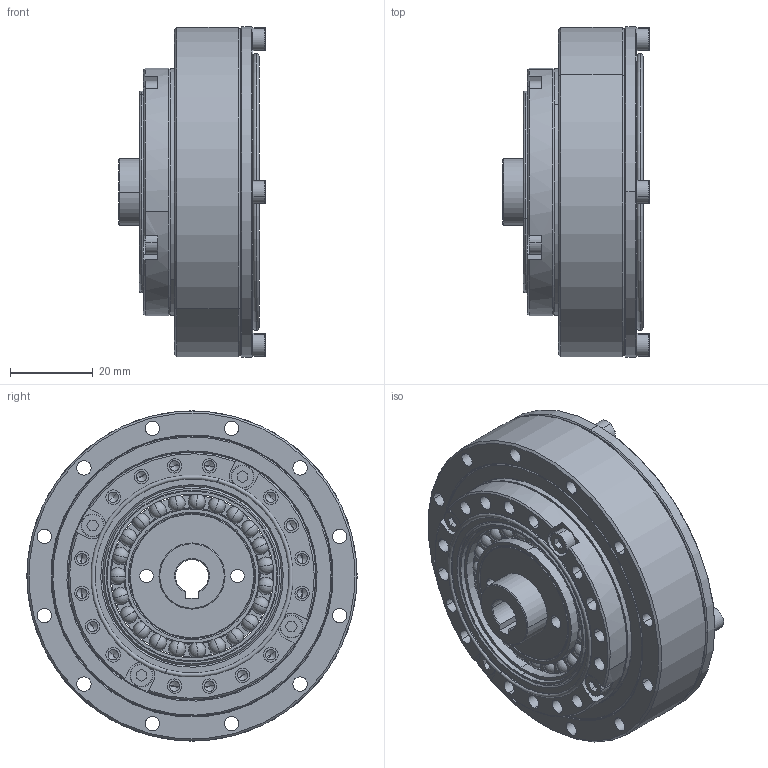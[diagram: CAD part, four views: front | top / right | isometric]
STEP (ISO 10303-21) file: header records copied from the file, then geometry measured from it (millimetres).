
FILE_DESCRIPTION (( 'STEP AP203' ), '1' );
FILE_NAME ('FHG-17-XXX-SJ.STEP', '2023-01-17T03:03:54', ( '微软用户' ), ( '微软中国' ), 'SwSTEP 2.0', 'SolidWorks 2016', '' );
FILE_SCHEMA (( 'CONFIG_CONTROL_DESIGN' ));
Length unit declared in the file: millimetre
Products named in the file (1): FHG-17-XXX-SJ
Bounding box: 35.5 x 80 x 80 mm (x, y, z)
Volume: 73286.5 mm3; surface area: 64015.6 mm2
Topology: 45 solids, 45 shells, 778 faces, 1934 edges, 1200 vertices
Faces by surface type: cylinder 344, plane 177, cone 139, torus 72, sphere 46
Entity records: 22449 total; most frequent: DIRECTION 4366, CARTESIAN_POINT 3713, ORIENTED_EDGE 3534, AXIS2_PLACEMENT_3D 1832, EDGE_CURVE 1767, VERTEX_POINT 1131, CIRCLE 1053, EDGE_LOOP 956
